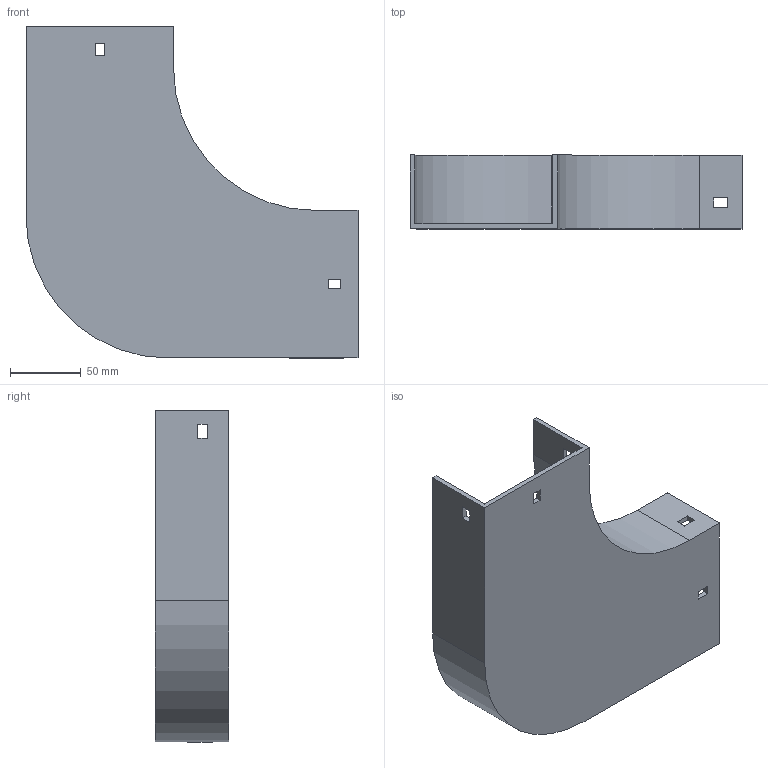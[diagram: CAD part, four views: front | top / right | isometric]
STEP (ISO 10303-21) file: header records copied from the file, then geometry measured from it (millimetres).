
FILE_DESCRIPTION (( 'STEP AP214' ), '1' );
FILE_NAME ('10F1B100.step', '2025-02-21T12:56:56', ( '' ), ( '' ), 'SwSTEP 2.0', 'SolidWorks 2023', '' );
FILE_SCHEMA (( 'AUTOMOTIVE_DESIGN' ));
Length unit declared in the file: millimetre
Products named in the file (1): 10F1B100
Bounding box: 234 x 52 x 234 mm (x, y, z)
Volume: 240113 mm3; surface area: 141555 mm2
Topology: 1 solids, 1 shells, 42 faces, 120 edges, 80 vertices
Faces by surface type: plane 38, cylinder 4
Entity records: 1399 total; most frequent: CARTESIAN_POINT 243, ORIENTED_EDGE 240, DIRECTION 214, EDGE_CURVE 120, LINE 112, VECTOR 112, VERTEX_POINT 80, EDGE_LOOP 54
